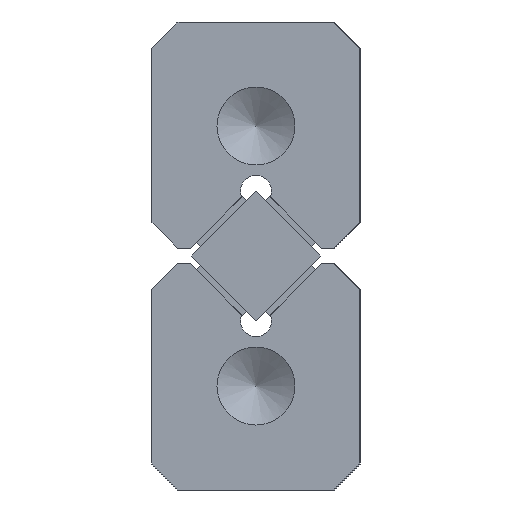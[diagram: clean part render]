
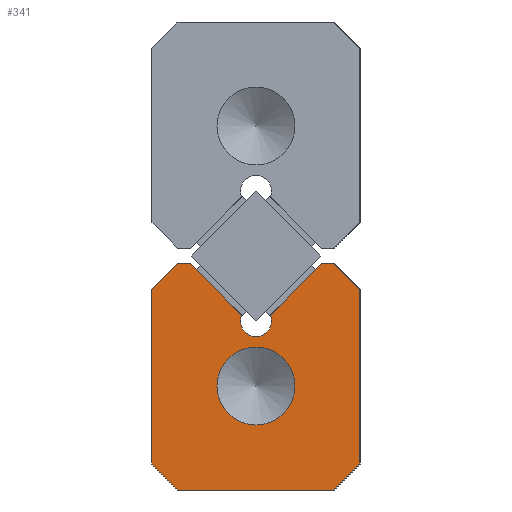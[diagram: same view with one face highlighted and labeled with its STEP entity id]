
A CAD part, left-side view. The second image highlights one B-rep face of the part: STEP entity #341.
In plain terms, the highlighted planar face has unit normal (-1, 0, 0).
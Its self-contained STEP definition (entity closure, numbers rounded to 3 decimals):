
#98=CARTESIAN_POINT('',(0.0,-3.,5.2));
#99=VERTEX_POINT('',#98);
#106=CARTESIAN_POINT('',(0.0,-4.0,4.2));
#107=VERTEX_POINT('',#106);
#108=CARTESIAN_POINT('',(0.0,-3.,5.2));
#109=DIRECTION('',(0.0,-0.707,-0.707));
#110=VECTOR('',#109,1.414);
#111=LINE('',#108,#110);
#112=EDGE_CURVE('',#99,#107,#111,.T.);
#129=CARTESIAN_POINT('',(0.0,-4.0,-2.5));
#130=VERTEX_POINT('',#129);
#131=CARTESIAN_POINT('',(0.0,-4.0,4.2));
#132=DIRECTION('',(0.0,0.0,-1.0));
#133=VECTOR('',#132,6.7);
#134=LINE('',#131,#133);
#135=EDGE_CURVE('',#107,#130,#134,.T.);
#242=CARTESIAN_POINT('',(0.0,0.,0.885));
#243=DIRECTION('',(1.0,0.0,0.0));
#244=DIRECTION('',(0.0,0.0,-1.0));
#245=AXIS2_PLACEMENT_3D('',#242,#243,#244);
#246=PLANE('',#245);
#247=ORIENTED_EDGE('',*,*,#112,.F.);
#248=CARTESIAN_POINT('',(0.0,-2.528,5.2));
#249=VERTEX_POINT('',#248);
#250=CARTESIAN_POINT('',(0.0,-2.528,5.2));
#251=DIRECTION('',(0.0,-1.0,0.0));
#252=VECTOR('',#251,0.472);
#253=LINE('',#250,#252);
#254=EDGE_CURVE('',#249,#99,#253,.T.);
#255=ORIENTED_EDGE('',*,*,#254,.F.);
#256=CARTESIAN_POINT('',(0.0,-0.555,3.227));
#257=VERTEX_POINT('',#256);
#258=CARTESIAN_POINT('',(0.0,-0.555,3.227));
#259=DIRECTION('',(0.0,-0.707,0.707));
#260=VECTOR('',#259,2.79);
#261=LINE('',#258,#260);
#262=EDGE_CURVE('',#257,#249,#261,.T.);
#263=ORIENTED_EDGE('',*,*,#262,.F.);
#264=CARTESIAN_POINT('',(0.0,0.555,3.227));
#265=VERTEX_POINT('',#264);
#266=CARTESIAN_POINT('',(0.0,0.0,3.));
#267=DIRECTION('',(-1.,0.0,0.0));
#268=DIRECTION('',(0.0,0.926,-0.378));
#269=AXIS2_PLACEMENT_3D('',#266,#267,#268);
#270=CIRCLE('',#269,0.6);
#271=EDGE_CURVE('',#265,#257,#270,.T.);
#272=ORIENTED_EDGE('',*,*,#271,.F.);
#273=CARTESIAN_POINT('',(0.0,2.528,5.2));
#274=VERTEX_POINT('',#273);
#275=CARTESIAN_POINT('',(0.0,2.528,5.2));
#276=DIRECTION('',(0.0,-0.707,-0.707));
#277=VECTOR('',#276,2.79);
#278=LINE('',#275,#277);
#279=EDGE_CURVE('',#274,#265,#278,.T.);
#280=ORIENTED_EDGE('',*,*,#279,.F.);
#281=CARTESIAN_POINT('',(0.0,3.,5.2));
#282=VERTEX_POINT('',#281);
#283=CARTESIAN_POINT('',(0.0,3.,5.2));
#284=DIRECTION('',(0.0,-1.0,0.0));
#285=VECTOR('',#284,0.472);
#286=LINE('',#283,#285);
#287=EDGE_CURVE('',#282,#274,#286,.T.);
#288=ORIENTED_EDGE('',*,*,#287,.F.);
#289=CARTESIAN_POINT('',(0.0,4.0,4.2));
#290=VERTEX_POINT('',#289);
#291=CARTESIAN_POINT('',(0.0,4.0,4.2));
#292=DIRECTION('',(0.0,-0.707,0.707));
#293=VECTOR('',#292,1.414);
#294=LINE('',#291,#293);
#295=EDGE_CURVE('',#290,#282,#294,.T.);
#296=ORIENTED_EDGE('',*,*,#295,.F.);
#297=CARTESIAN_POINT('',(0.0,4.0,-2.5));
#298=VERTEX_POINT('',#297);
#299=CARTESIAN_POINT('',(0.0,4.0,-2.5));
#300=DIRECTION('',(0.0,0.0,1.0));
#301=VECTOR('',#300,6.7);
#302=LINE('',#299,#301);
#303=EDGE_CURVE('',#298,#290,#302,.T.);
#304=ORIENTED_EDGE('',*,*,#303,.F.);
#305=CARTESIAN_POINT('',(0.0,3.,-3.5));
#306=VERTEX_POINT('',#305);
#307=CARTESIAN_POINT('',(0.0,3.,-3.5));
#308=DIRECTION('',(0.0,0.707,0.707));
#309=VECTOR('',#308,1.414);
#310=LINE('',#307,#309);
#311=EDGE_CURVE('',#306,#298,#310,.T.);
#312=ORIENTED_EDGE('',*,*,#311,.F.);
#313=CARTESIAN_POINT('',(0.0,-3.,-3.5));
#314=VERTEX_POINT('',#313);
#315=CARTESIAN_POINT('',(0.0,-3.,-3.5));
#316=DIRECTION('',(0.0,1.0,0.0));
#317=VECTOR('',#316,6.);
#318=LINE('',#315,#317);
#319=EDGE_CURVE('',#314,#306,#318,.T.);
#320=ORIENTED_EDGE('',*,*,#319,.F.);
#321=CARTESIAN_POINT('',(0.0,-4.0,-2.5));
#322=DIRECTION('',(0.0,0.707,-0.707));
#323=VECTOR('',#322,1.414);
#324=LINE('',#321,#323);
#325=EDGE_CURVE('',#130,#314,#324,.T.);
#326=ORIENTED_EDGE('',*,*,#325,.F.);
#327=ORIENTED_EDGE('',*,*,#135,.F.);
#328=EDGE_LOOP('',(#247,#255,#263,#272,#280,#288,#296,#304,#312,#320,#326,#327));
#329=FACE_OUTER_BOUND('',#328,.T.);
#330=CARTESIAN_POINT('',(0.0,1.5,0.5));
#331=VERTEX_POINT('',#330);
#332=CARTESIAN_POINT('',(0.0,0.0,0.5));
#333=DIRECTION('',(1.0,0.0,0.0));
#334=DIRECTION('',(0.0,1.0,0.0));
#335=AXIS2_PLACEMENT_3D('',#332,#333,#334);
#336=CIRCLE('',#335,1.5);
#337=EDGE_CURVE('',#331,#331,#336,.T.);
#338=ORIENTED_EDGE('',*,*,#337,.T.);
#339=EDGE_LOOP('',(#338));
#340=FACE_BOUND('',#339,.T.);
#341=ADVANCED_FACE('',(#329,#340),#246,.F.);
